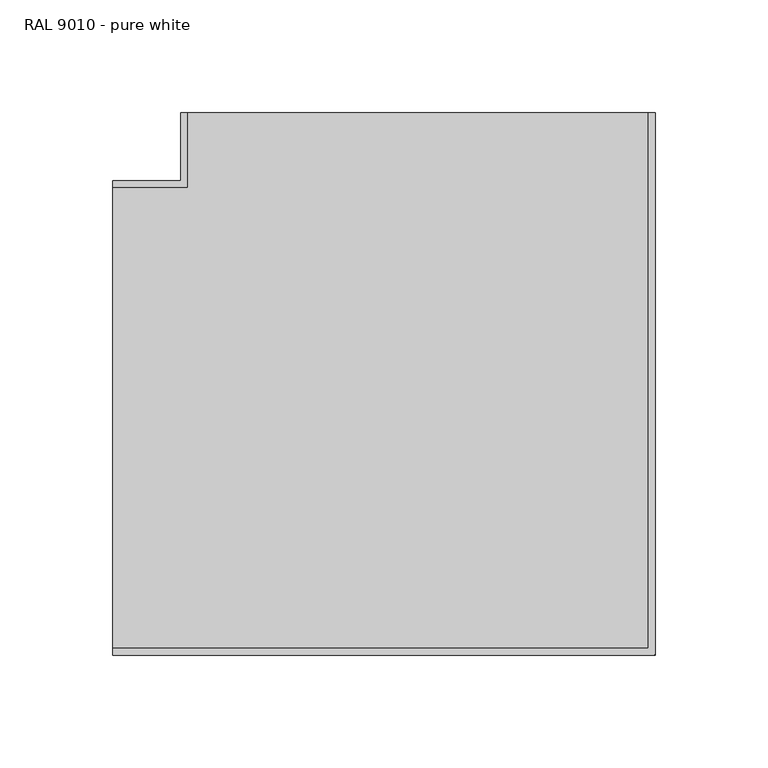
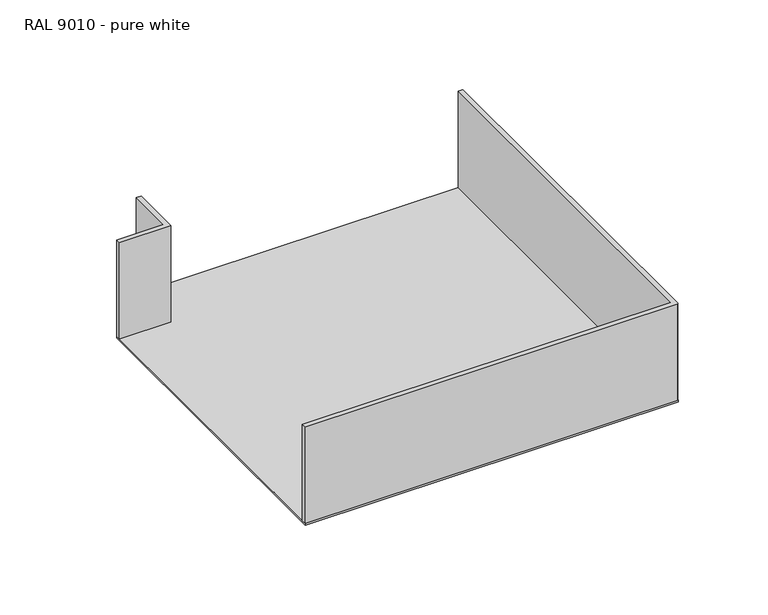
"""IFC4 building model written with IfcOpenShell, lengths in millimetres: cable carrier fitting geometry, Electrical_Installations_Hager_BRP-Flat-Corner-PC-ABS-Vertical-Inside-And-Outside-Bend-Two-Compartments : RAL 9010 - pure white."""

from ifc_helpers import new_model, si_unit, point, frame, frame_2d, origin, place, context, project, spatial, polyline, circle_curve, trimmed, segment, composite_curve, outline, extrude, source, transform, mapped, element, save


def ral_9010_pure_white_37bd4c32(model_context):
    return source(origin(), model_context, "Body", "SweptSolid", [
        extrude(outline(composite_curve([segment(polyline([(104.3130803, -105.0), (-135.0, -105.0), (-135.0, -102.0), (102.0, -102.0), (102.0, 135.0), (105.0, 135.0), (105.0, -104.3130803)]), True, "CONTINUOUS"), segment(trimmed(circle_curve(frame_2d((104.3130803, -104.3130803)), 0.6869197), [point((105.0, -104.3130803))], [point((104.3130803, -105.0))], False, "CARTESIAN"), True, "CONTINUOUS")], self_intersect=False)), frame((0.0, 0.0, -32.8402081), z_axis=(0.0, 0.0, 1.0), x_axis=(1.0, 0.0, 0.0)), (0.0, 0.0, 1.0), 65.6804162),
        extrude(outline(polyline([(-105.0, 105.0), (-105.0, 135.0), (-102.0, 135.0), (-102.0, 102.0), (-135.0, 102.0), (-135.0, 105.0), (-105.0, 105.0)])), frame((0.0, 0.0, -32.8402081), z_axis=(0.0, 0.0, 1.0), x_axis=(1.0, 0.0, 0.0)), (0.0, 0.0, 1.0), 65.6804162),
        extrude(outline(polyline([(-105.0, 135.0), (105.0, 135.0), (105.0, -105.0), (-135.0, -105.0), (-135.0, 105.0), (-105.0, 105.0), (-105.0, 135.0)])), frame((0.0, 0.0, -34.0), z_axis=(0.0, 0.0, 1.0), x_axis=(1.0, 0.0, 0.0)), (0.0, 0.0, 1.0), 1.1597919),
    ])


if __name__ == "__main__":
    model = new_model("IFC4")
    model_context = context("Model", 3, world=origin())
    ifc_project = project(units=[si_unit("LENGTHUNIT", "METRE", prefix="MILLI")], contexts=[model_context])
    site = spatial("IfcSite", under=ifc_project)
    building = spatial("IfcBuilding", under=site)
    placement = place(None, origin())
    ral_9010_pure_white_shape = ral_9010_pure_white_37bd4c32(model_context)
    element("IfcCableCarrierFitting", 1, ObjectType="Electrical_Installations_Hager_BRP-Flat-Corner-PC-ABS-Vertical-Inside-And-Outside-Bend-Two-Compartments : RAL 9010 - pure white", at=placement, inside=building, context=model_context, shape_type="MappedRepresentation", body=[
        mapped(ral_9010_pure_white_shape, transform((0.0, 0.0, 0.0), x_axis=(1.0, 0.0, 0.0), y_axis=(0.0, 1.0, 0.0), z_axis=(0.0, 0.0, 1.0))),
    ])
    save(model, "model.ifc")
